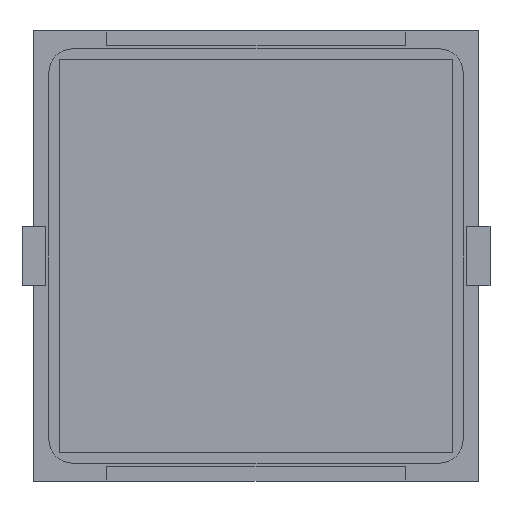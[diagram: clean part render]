
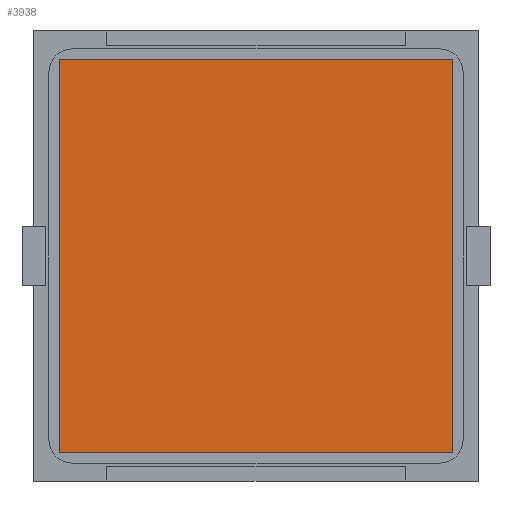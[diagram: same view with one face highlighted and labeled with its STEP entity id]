
A CAD part, front view. The second image highlights one B-rep face of the part: STEP entity #3938.
In plain terms, the highlighted planar face has unit normal (0, -1, 0).
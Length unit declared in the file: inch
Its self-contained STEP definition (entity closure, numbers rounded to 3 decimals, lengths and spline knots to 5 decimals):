
#353 = VERTEX_POINT ( 'NONE', #2707 ) ;
#406 = CARTESIAN_POINT ( 'NONE',  ( 0.64961, -0.005, -0.64961 ) ) ;
#1492 = EDGE_CURVE ( 'NONE', #2016, #13982, #12815, .T. ) ;
#1774 = VECTOR ( 'NONE', #7447, 39.37008 ) ;
#2016 = VERTEX_POINT ( 'NONE', #3429 ) ;
#2027 = ORIENTED_EDGE ( 'NONE', *, *, #12121, .T. ) ;
#2481 = VECTOR ( 'NONE', #8421, 39.37008 ) ;
#2707 = CARTESIAN_POINT ( 'NONE',  ( -0.64961, -0.005, 0.64961 ) ) ;
#3429 = CARTESIAN_POINT ( 'NONE',  ( -0.64961, -0.005, -0.64961 ) ) ;
#3430 = VERTEX_POINT ( 'NONE', #13655 ) ;
#3938 = ADVANCED_FACE ( 'NONE', ( #10758 ), #14491, .T. ) ;
#4580 = ORIENTED_EDGE ( 'NONE', *, *, #8449, .T. ) ;
#5085 = EDGE_LOOP ( 'NONE', ( #15466, #4580, #2027, #13174 ) ) ;
#5141 = DIRECTION ( 'NONE',  ( 0., 0., 1. ) ) ;
#5160 = VECTOR ( 'NONE', #5141, 39.37008 ) ;
#5233 = CARTESIAN_POINT ( 'NONE',  ( 0.64961, -0.005, -0.64961 ) ) ;
#5943 = AXIS2_PLACEMENT_3D ( 'NONE', #14818, #9515, #14584 ) ;
#7447 = DIRECTION ( 'NONE',  ( 0., 0., -1. ) ) ;
#7743 = CARTESIAN_POINT ( 'NONE',  ( 0.64961, -0.005, -0.64961 ) ) ;
#8421 = DIRECTION ( 'NONE',  ( -1., 0., 0. ) ) ;
#8449 = EDGE_CURVE ( 'NONE', #3430, #353, #13323, .T. ) ;
#8683 = LINE ( 'NONE', #13647, #1774 ) ;
#8914 = LINE ( 'NONE', #5233, #5160 ) ;
#9358 = EDGE_CURVE ( 'NONE', #13982, #3430, #8914, .T. ) ;
#9515 = DIRECTION ( 'NONE',  ( 0., -1., 0. ) ) ;
#10267 = DIRECTION ( 'NONE',  ( 1., 0., 0. ) ) ;
#10758 = FACE_OUTER_BOUND ( 'NONE', #5085, .T. ) ;
#12006 = CARTESIAN_POINT ( 'NONE',  ( 0.64961, -0.005, 0.64961 ) ) ;
#12121 = EDGE_CURVE ( 'NONE', #353, #2016, #8683, .T. ) ;
#12815 = LINE ( 'NONE', #7743, #16023 ) ;
#13174 = ORIENTED_EDGE ( 'NONE', *, *, #1492, .T. ) ;
#13323 = LINE ( 'NONE', #12006, #2481 ) ;
#13647 = CARTESIAN_POINT ( 'NONE',  ( -0.64961, -0.005, -0.64961 ) ) ;
#13655 = CARTESIAN_POINT ( 'NONE',  ( 0.64961, -0.005, 0.64961 ) ) ;
#13982 = VERTEX_POINT ( 'NONE', #406 ) ;
#14491 = PLANE ( 'NONE',  #5943 ) ;
#14584 = DIRECTION ( 'NONE',  ( 0., 0., 1. ) ) ;
#14818 = CARTESIAN_POINT ( 'NONE',  ( 0.64961, -0.005, 0.64961 ) ) ;
#15466 = ORIENTED_EDGE ( 'NONE', *, *, #9358, .T. ) ;
#16023 = VECTOR ( 'NONE', #10267, 39.37008 ) ;
